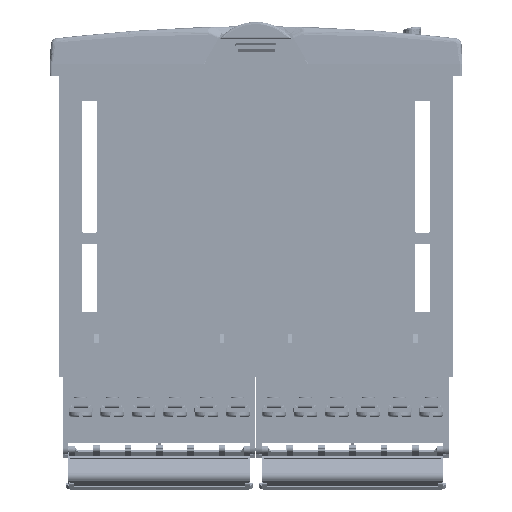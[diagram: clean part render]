
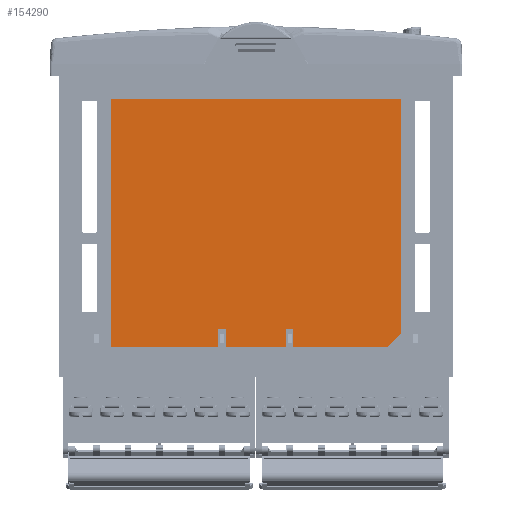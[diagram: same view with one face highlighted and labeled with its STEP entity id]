
A CAD part, front view. The second image highlights one B-rep face of the part: STEP entity #154290.
In plain terms, the highlighted planar face has unit normal (0, -1, 0).
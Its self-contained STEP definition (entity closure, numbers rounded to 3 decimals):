
#18494=DIRECTION('',(-0.707,0.,-0.707));
#18495=VECTOR('',#18494,4.243);
#18496=CARTESIAN_POINT('',(81.75,2.8,-72.6));
#18497=LINE('',#18496,#18495);
#18498=DIRECTION('',(-1.,0.,0.));
#18499=VECTOR('',#18498,22.);
#18500=CARTESIAN_POINT('',(78.75,2.8,-75.6));
#18501=LINE('',#18500,#18499);
#18502=DIRECTION('',(0.,0.,1.));
#18503=VECTOR('',#18502,4.);
#18504=CARTESIAN_POINT('',(56.75,2.8,-75.6));
#18505=LINE('',#18504,#18503);
#18506=DIRECTION('',(-1.,0.,0.));
#18507=VECTOR('',#18506,1.8);
#18508=CARTESIAN_POINT('',(56.75,2.8,-71.6));
#18509=LINE('',#18508,#18507);
#18510=DIRECTION('',(0.,0.,-1.));
#18511=VECTOR('',#18510,4.);
#18512=CARTESIAN_POINT('',(54.95,2.8,-71.6));
#18513=LINE('',#18512,#18511);
#18514=DIRECTION('',(-1.,0.,0.));
#18515=VECTOR('',#18514,13.9);
#18516=CARTESIAN_POINT('',(54.95,2.8,-75.6));
#18517=LINE('',#18516,#18515);
#18518=DIRECTION('',(0.,0.,-1.));
#18519=VECTOR('',#18518,4.);
#18520=CARTESIAN_POINT('',(39.25,2.8,-71.6));
#18521=LINE('',#18520,#18519);
#18522=DIRECTION('',(-1.,0.,0.));
#18523=VECTOR('',#18522,25.);
#18524=CARTESIAN_POINT('',(39.25,2.8,-75.6));
#18525=LINE('',#18524,#18523);
#18526=DIRECTION('',(0.,0.,1.));
#18527=VECTOR('',#18526,54.6);
#18528=CARTESIAN_POINT('',(81.75,2.8,-72.6));
#18529=LINE('',#18528,#18527);
#18542=DIRECTION('',(-1.,0.,0.));
#18543=VECTOR('',#18542,67.5);
#18544=CARTESIAN_POINT('',(81.75,2.8,-18.));
#18545=LINE('',#18544,#18543);
#18554=DIRECTION('',(0.,0.,-1.));
#18555=VECTOR('',#18554,57.6);
#18556=CARTESIAN_POINT('',(14.25,2.8,-18.));
#18557=LINE('',#18556,#18555);
#18590=DIRECTION('',(0.,0.,-1.));
#18591=VECTOR('',#18590,4.);
#18592=CARTESIAN_POINT('',(41.05,2.8,-71.6));
#18593=LINE('',#18592,#18591);
#18722=DIRECTION('',(1.,0.,0.));
#18723=VECTOR('',#18722,1.8);
#18724=CARTESIAN_POINT('',(39.25,2.8,-71.6));
#18725=LINE('',#18724,#18723);
#99315=CARTESIAN_POINT('',(39.25,2.8,-71.6));
#99316=CARTESIAN_POINT('',(39.25,2.8,-75.6));
#99317=VERTEX_POINT('',#99315);
#99318=VERTEX_POINT('',#99316);
#99359=CARTESIAN_POINT('',(78.75,2.8,-75.6));
#99360=VERTEX_POINT('',#99359);
#99361=CARTESIAN_POINT('',(14.25,2.8,-75.6));
#99362=VERTEX_POINT('',#99361);
#99365=CARTESIAN_POINT('',(56.75,2.8,-75.6));
#99366=CARTESIAN_POINT('',(56.75,2.8,-71.6));
#99367=VERTEX_POINT('',#99365);
#99368=VERTEX_POINT('',#99366);
#99371=CARTESIAN_POINT('',(54.95,2.8,-71.6));
#99372=VERTEX_POINT('',#99371);
#99373=CARTESIAN_POINT('',(54.95,2.8,-75.6));
#99374=VERTEX_POINT('',#99373);
#99375=CARTESIAN_POINT('',(81.75,2.8,-72.6));
#99376=CARTESIAN_POINT('',(81.75,2.8,-18.));
#99377=VERTEX_POINT('',#99375);
#99378=VERTEX_POINT('',#99376);
#99379=CARTESIAN_POINT('',(41.05,2.8,-75.6));
#99380=VERTEX_POINT('',#99379);
#99381=CARTESIAN_POINT('',(14.25,2.8,-18.));
#99382=VERTEX_POINT('',#99381);
#99385=CARTESIAN_POINT('',(41.05,2.8,-71.6));
#99386=VERTEX_POINT('',#99385);
#154261=CARTESIAN_POINT('',(48.,2.8,-46.8));
#154262=DIRECTION('',(0.,1.,0.));
#154263=DIRECTION('',(0.,0.,-1.));
#154264=AXIS2_PLACEMENT_3D('',#154261,#154262,#154263);
#154265=PLANE('',#154264);
#154267=ORIENTED_EDGE('',*,*,#154266,.F.);
#154269=ORIENTED_EDGE('',*,*,#154268,.T.);
#154270=ORIENTED_EDGE('',*,*,#153917,.T.);
#154272=ORIENTED_EDGE('',*,*,#154271,.T.);
#154274=ORIENTED_EDGE('',*,*,#154273,.T.);
#154275=ORIENTED_EDGE('',*,*,#154254,.T.);
#154276=ORIENTED_EDGE('',*,*,#153932,.T.);
#154278=ORIENTED_EDGE('',*,*,#154277,.F.);
#154280=ORIENTED_EDGE('',*,*,#154279,.F.);
#154282=ORIENTED_EDGE('',*,*,#154281,.T.);
#154283=ORIENTED_EDGE('',*,*,#153924,.T.);
#154285=ORIENTED_EDGE('',*,*,#154284,.F.);
#154287=ORIENTED_EDGE('',*,*,#154286,.F.);
#154288=EDGE_LOOP('',(#154267,#154269,#154270,#154272,#154274,#154275,#154276,
#154278,#154280,#154282,#154283,#154285,#154287));
#154289=FACE_OUTER_BOUND('',#154288,.F.);
#153917=EDGE_CURVE('',#99360,#99367,#18501,.T.);
#153924=EDGE_CURVE('',#99318,#99362,#18525,.T.);
#153932=EDGE_CURVE('',#99374,#99380,#18517,.T.);
#154254=EDGE_CURVE('',#99372,#99374,#18513,.T.);
#154266=EDGE_CURVE('',#99377,#99378,#18529,.T.);
#154268=EDGE_CURVE('',#99377,#99360,#18497,.T.);
#154271=EDGE_CURVE('',#99367,#99368,#18505,.T.);
#154273=EDGE_CURVE('',#99368,#99372,#18509,.T.);
#154277=EDGE_CURVE('',#99386,#99380,#18593,.T.);
#154279=EDGE_CURVE('',#99317,#99386,#18725,.T.);
#154281=EDGE_CURVE('',#99317,#99318,#18521,.T.);
#154284=EDGE_CURVE('',#99382,#99362,#18557,.T.);
#154286=EDGE_CURVE('',#99378,#99382,#18545,.T.);
#154290=ADVANCED_FACE('',(#154289),#154265,.F.);
